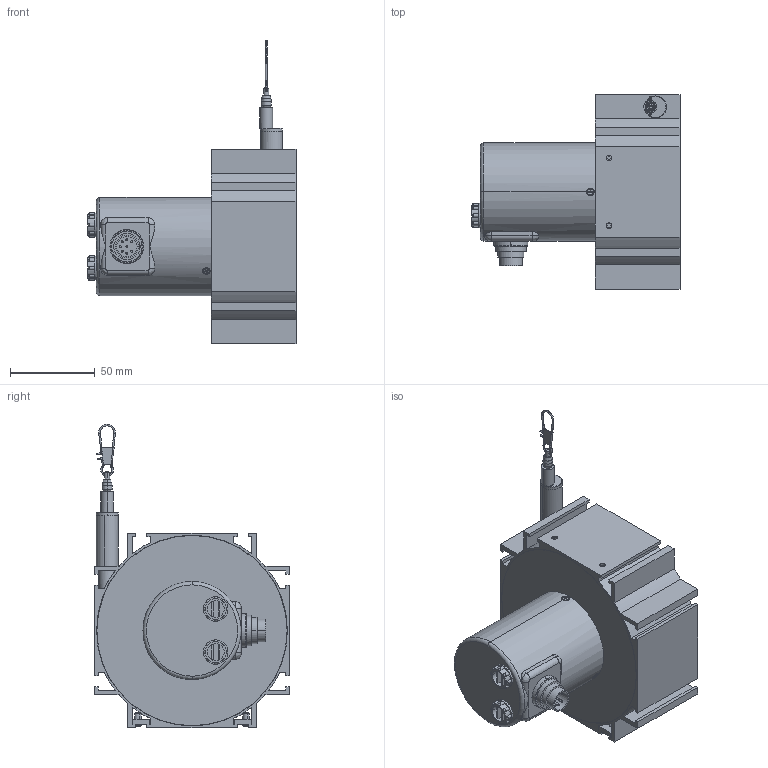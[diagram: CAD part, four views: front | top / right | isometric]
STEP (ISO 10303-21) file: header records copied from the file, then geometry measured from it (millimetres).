
FILE_DESCRIPTION((''),'2;1');
FILE_NAME('','2007-03-21T',(''),(''),'PRO/ENGINEER BY PARAMETRIC TECHNOLOGY CORPORATION, 2003250','PRO/ENGINEER BY PARAMETRIC TECHNOLOGY CORPORATION, 2003250','');
FILE_SCHEMA(('CONFIG_CONTROL_DESIGN'));
Length unit declared in the file: millimetre
Bounding box: 123 x 115 x 179.5 mm (x, y, z)
Volume: 265567 mm3; surface area: 131143.7 mm2
Topology: 1 solids, 7 shells, 731 faces, 1940 edges, 1261 vertices
Faces by surface type: plane 303, cylinder 288, cone 74, torus 34, bspline 30, sphere 2
Entity records: 24559 total; most frequent: CARTESIAN_POINT 6166, DIRECTION 3938, ORIENTED_EDGE 3800, EDGE_CURVE 1900, AXIS2_PLACEMENT_3D 1510, VERTEX_POINT 1261, VECTOR 918, LINE 918
